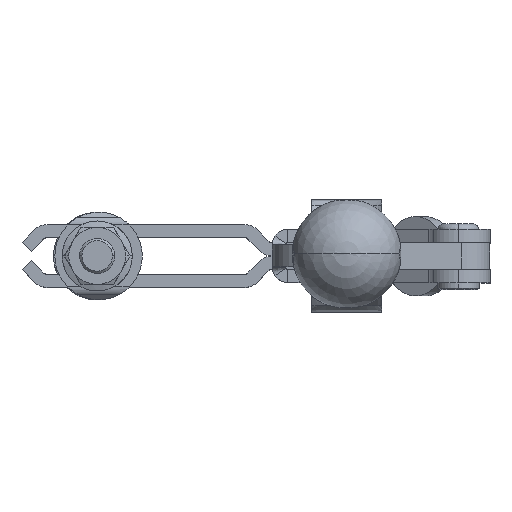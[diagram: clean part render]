
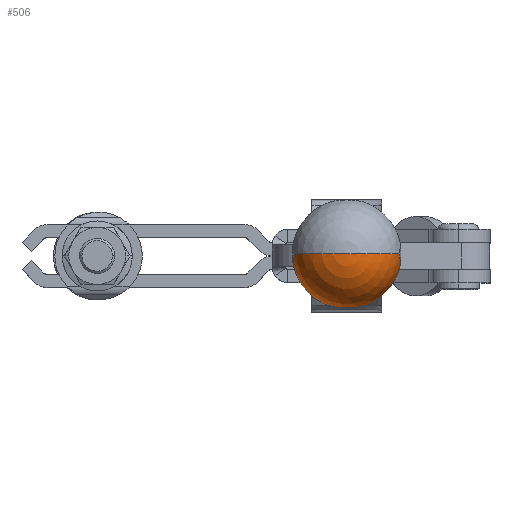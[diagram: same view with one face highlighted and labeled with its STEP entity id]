
A CAD part, top view. The second image highlights one B-rep face of the part: STEP entity #506.
In plain terms, the highlighted spherical face has radius 12.5 mm.
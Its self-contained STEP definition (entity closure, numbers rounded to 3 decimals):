
#506=ADVANCED_FACE('',(#3298),#3299,.T.);
#3298=FACE_OUTER_BOUND('',#8189,.T.);
#3299=SPHERICAL_SURFACE('',#8190,12.5);
#8189=EDGE_LOOP('',(#27407,#27408,#27409,#27410,#27411,#27412,#27413,#27414,#27415));
#8190=AXIS2_PLACEMENT_3D('',#27416,#27417,#27418);
#27407=ORIENTED_EDGE('',*,*,#42902,.F.);
#27408=ORIENTED_EDGE('',*,*,#42903,.T.);
#27409=ORIENTED_EDGE('',*,*,#42904,.T.);
#27410=ORIENTED_EDGE('',*,*,#42905,.T.);
#27411=ORIENTED_EDGE('',*,*,#42906,.T.);
#27412=ORIENTED_EDGE('',*,*,#42907,.T.);
#27413=ORIENTED_EDGE('',*,*,#42908,.T.);
#27414=ORIENTED_EDGE('',*,*,#42909,.T.);
#27415=ORIENTED_EDGE('',*,*,#42910,.F.);
#27416=CARTESIAN_POINT('',(-12.756,0.25,182.565));
#27417=DIRECTION('',(0.0,0.0,1.0));
#27418=DIRECTION('',(-1.0,0.0,0.0));
#42902=EDGE_CURVE('',#49847,#49848,#49849,.T.);
#42903=EDGE_CURVE('',#49847,#49850,#49851,.T.);
#42904=EDGE_CURVE('',#49850,#49852,#49853,.T.);
#42905=EDGE_CURVE('',#49852,#49854,#49855,.T.);
#42906=EDGE_CURVE('',#49854,#49856,#49857,.T.);
#42907=EDGE_CURVE('',#49856,#49858,#49859,.T.);
#42908=EDGE_CURVE('',#49858,#49860,#49861,.T.);
#42909=EDGE_CURVE('',#49860,#49862,#49863,.T.);
#42910=EDGE_CURVE('',#49848,#49862,#49864,.T.);
#49847=VERTEX_POINT('',#60818);
#49848=VERTEX_POINT('',#60819);
#49849=CIRCLE('',#60820,12.5);
#49850=VERTEX_POINT('',#60821);
#49851=B_SPLINE_CURVE_WITH_KNOTS('',3,(#60822,#60823,#60824,#60825),.UNSPECIFIED.,.F.,.F.,(4,4),(0.,1.),.UNSPECIFIED.);
#49852=VERTEX_POINT('',#60826);
#49853=CIRCLE('',#60827,12.483);
#49854=VERTEX_POINT('',#60828);
#49855=B_SPLINE_CURVE_WITH_KNOTS('',3,(#60829,#60830,#60831,#60832),.UNSPECIFIED.,.F.,.F.,(4,4),(0.0,1.0),.UNSPECIFIED.);
#49856=VERTEX_POINT('',#60833);
#49857=B_SPLINE_CURVE_WITH_KNOTS('',3,(#60834,#60835,#60836,#60837,#60838,#60839),.UNSPECIFIED.,.F.,.F.,(4,2,4),(0.0,0.5,1.0),.UNSPECIFIED.);
#49858=VERTEX_POINT('',#60840);
#49859=B_SPLINE_CURVE_WITH_KNOTS('',3,(#60841,#60842,#60843,#60844),.UNSPECIFIED.,.F.,.F.,(4,4),(0.0,1.),.UNSPECIFIED.);
#49860=VERTEX_POINT('',#60845);
#49861=CIRCLE('',#60846,12.483);
#49862=VERTEX_POINT('',#60847);
#49863=B_SPLINE_CURVE_WITH_KNOTS('',3,(#60848,#60849,#60850,#60851),.UNSPECIFIED.,.F.,.F.,(4,4),(0.,1.),.UNSPECIFIED.);
#49864=CIRCLE('',#60852,12.5);
#60818=CARTESIAN_POINT('',(-24.644,0.25,186.429));
#60819=CARTESIAN_POINT('',(-12.756,0.25,195.065));
#60820=AXIS2_PLACEMENT_3D('',#87500,#87501,#87502);
#60821=CARTESIAN_POINT('',(-24.739,-3.247,181.915));
#60822=CARTESIAN_POINT('',(-24.644,0.25,186.429));
#60823=CARTESIAN_POINT('',(-25.11,-0.919,184.993));
#60824=CARTESIAN_POINT('',(-25.157,-2.095,183.411));
#60825=CARTESIAN_POINT('',(-24.739,-3.247,181.915));
#60826=CARTESIAN_POINT('',(-18.021,-11.069,181.915));
#60827=AXIS2_PLACEMENT_3D('',#87503,#87504,#87505);
#60828=CARTESIAN_POINT('',(-17.669,-11.242,182.341));
#60829=CARTESIAN_POINT('',(-18.021,-11.069,181.915));
#60830=CARTESIAN_POINT('',(-17.91,-11.128,182.061));
#60831=CARTESIAN_POINT('',(-17.793,-11.186,182.203));
#60832=CARTESIAN_POINT('',(-17.669,-11.242,182.341));
#60833=CARTESIAN_POINT('',(-7.843,-11.242,182.341));
#60834=CARTESIAN_POINT('',(-17.669,-11.242,182.341));
#60835=CARTESIAN_POINT('',(-16.458,-11.786,183.685));
#60836=CARTESIAN_POINT('',(-14.632,-12.094,184.527));
#60837=CARTESIAN_POINT('',(-10.889,-12.095,184.529));
#60838=CARTESIAN_POINT('',(-9.054,-11.786,183.686));
#60839=CARTESIAN_POINT('',(-7.843,-11.242,182.341));
#60840=CARTESIAN_POINT('',(-7.491,-11.069,181.915));
#60841=CARTESIAN_POINT('',(-7.843,-11.242,182.341));
#60842=CARTESIAN_POINT('',(-7.719,-11.186,182.203));
#60843=CARTESIAN_POINT('',(-7.602,-11.128,182.061));
#60844=CARTESIAN_POINT('',(-7.491,-11.069,181.915));
#60845=CARTESIAN_POINT('',(-0.773,-3.247,181.915));
#60846=AXIS2_PLACEMENT_3D('',#87506,#87507,#87508);
#60847=CARTESIAN_POINT('',(-0.868,0.25,186.429));
#60848=CARTESIAN_POINT('',(-0.773,-3.247,181.915));
#60849=CARTESIAN_POINT('',(-0.355,-2.095,183.411));
#60850=CARTESIAN_POINT('',(-0.401,-0.919,184.993));
#60851=CARTESIAN_POINT('',(-0.868,0.25,186.429));
#60852=AXIS2_PLACEMENT_3D('',#87509,#87510,#87511);
#87500=CARTESIAN_POINT('',(-12.756,0.25,182.565));
#87501=DIRECTION('',(0.,1.0,0.0));
#87502=DIRECTION('',(0.0,-0.0,-1.0));
#87503=CARTESIAN_POINT('',(-12.756,0.25,181.915));
#87504=DIRECTION('',(0.0,0.0,1.0));
#87505=DIRECTION('',(1.0,0.0,0.0));
#87506=CARTESIAN_POINT('',(-12.756,0.25,181.915));
#87507=DIRECTION('',(0.0,0.0,1.0));
#87508=DIRECTION('',(1.0,0.0,0.0));
#87509=CARTESIAN_POINT('',(-12.756,0.25,182.565));
#87510=DIRECTION('',(0.,1.0,0.0));
#87511=DIRECTION('',(0.0,-0.0,-1.0));
